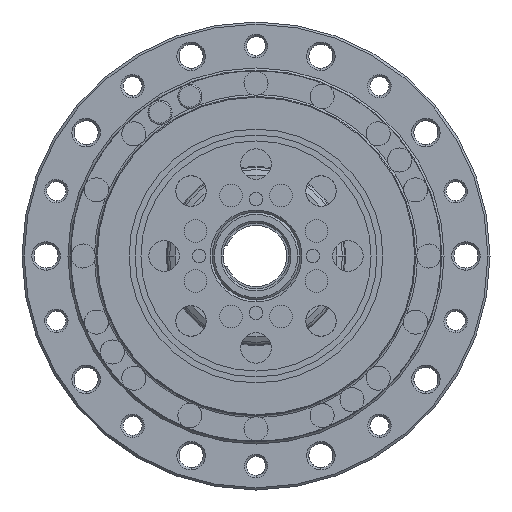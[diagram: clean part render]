
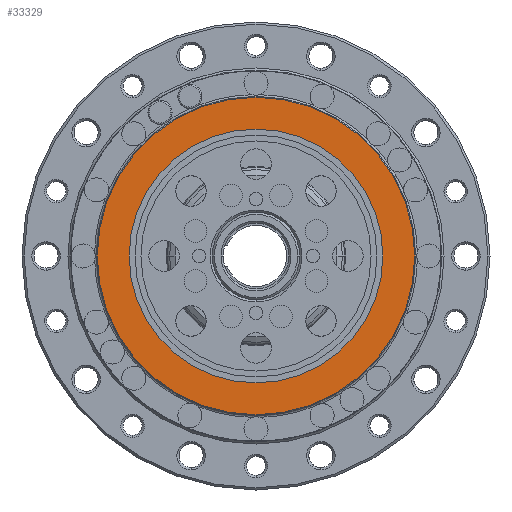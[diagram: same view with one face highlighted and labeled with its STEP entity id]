
A CAD part, front view. The second image highlights one B-rep face of the part: STEP entity #33329.
In plain terms, the highlighted planar face has unit normal (0, -1, 0).
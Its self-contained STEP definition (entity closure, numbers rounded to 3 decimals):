
#30636=CARTESIAN_POINT('',(0.,-18.,0.));
#30637=DIRECTION('',(0.,-1.,0.));
#30638=DIRECTION('',(0.,0.,-1.));
#30639=AXIS2_PLACEMENT_3D('',#30636,#30637,#30638);
#30644=CARTESIAN_POINT('',(0.,-18.,0.));
#30645=DIRECTION('',(0.,-1.,0.));
#30646=DIRECTION('',(0.,0.,1.));
#30647=AXIS2_PLACEMENT_3D('',#30644,#30645,#30646);
#30652=CARTESIAN_POINT('',(0.,-18.,0.));
#30653=DIRECTION('',(0.,1.,0.));
#30654=DIRECTION('',(0.,0.,-1.));
#30655=AXIS2_PLACEMENT_3D('',#30652,#30653,#30654);
#30660=CARTESIAN_POINT('',(0.,-18.,0.));
#30661=DIRECTION('',(0.,1.,0.));
#30662=DIRECTION('',(0.,0.,1.));
#30663=AXIS2_PLACEMENT_3D('',#30660,#30661,#30662);
#31873=CARTESIAN_POINT('',(0.,-18.,29.));
#31875=VERTEX_POINT('',#31873);
#31877=CARTESIAN_POINT('',(0.,-18.,-29.));
#31879=VERTEX_POINT('',#31877);
#31904=CARTESIAN_POINT('',(0.,-18.,-36.3));
#31905=VERTEX_POINT('',#31904);
#31906=CARTESIAN_POINT('',(0.,-18.,36.3));
#31907=VERTEX_POINT('',#31906);
#33315=CARTESIAN_POINT('',(-31.35,-18.,0.));
#33316=DIRECTION('',(0.,-1.,0.));
#33317=DIRECTION('',(0.,0.,-1.));
#33318=AXIS2_PLACEMENT_3D('',#33315,#33316,#33317);
#33319=PLANE('',#33318);
#33320=ORIENTED_EDGE('',*,*,#33295,.F.);
#33321=ORIENTED_EDGE('',*,*,#33309,.F.);
#33322=EDGE_LOOP('',(#33320,#33321));
#33323=FACE_OUTER_BOUND('',#33322,.F.);
#33325=ORIENTED_EDGE('',*,*,#33324,.F.);
#33326=ORIENTED_EDGE('',*,*,#32327,.F.);
#33327=EDGE_LOOP('',(#33325,#33326));
#33328=FACE_BOUND('',#33327,.F.);
#30640=CIRCLE('',#30639,36.3);
#30648=CIRCLE('',#30647,36.3);
#30656=CIRCLE('',#30655,29.);
#30664=CIRCLE('',#30663,29.);
#32327=EDGE_CURVE('',#31875,#31879,#30664,.T.);
#33295=EDGE_CURVE('',#31905,#31907,#30640,.T.);
#33309=EDGE_CURVE('',#31907,#31905,#30648,.T.);
#33324=EDGE_CURVE('',#31879,#31875,#30656,.T.);
#33329=ADVANCED_FACE('',(#33323,#33328),#33319,.T.);
